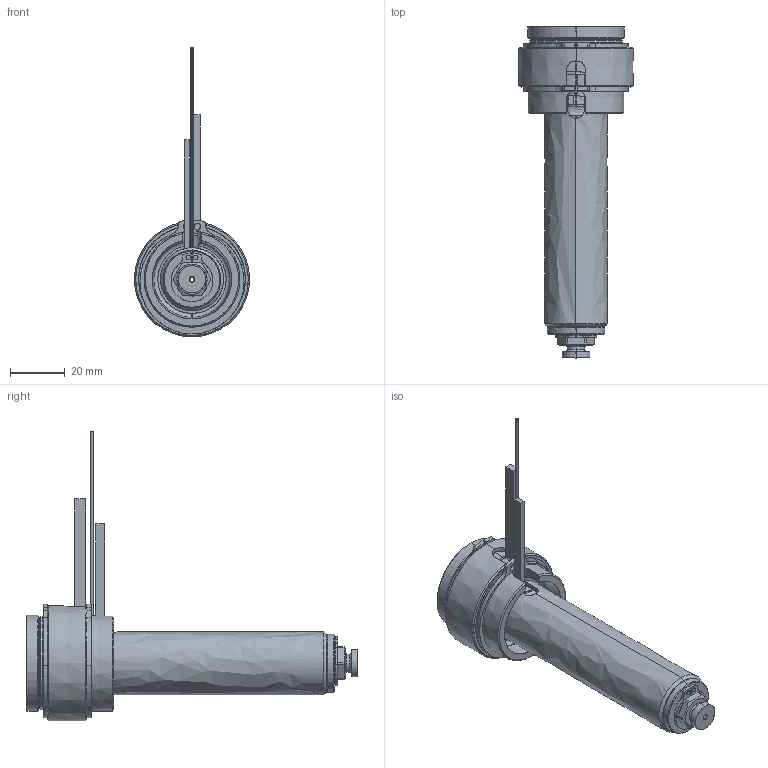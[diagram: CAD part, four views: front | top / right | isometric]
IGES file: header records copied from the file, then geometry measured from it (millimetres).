
Start section: SolidWorks IGES file using analytic representation for surfaces
Global section: file name: C:\Users\luca.EMPAD\Desktop\TEM\UGBE3502-S-A-3 [Ød-1.5 P-0 ØC-7.0].IGS; native system: SolidWorks 2012; preprocessor: SolidWorks 2012; author: luca; date: 120330.140425; units: millimetre
Bounding box: 42 x 121 x 105.6 mm (x, y, z)
Surface area: 28773.5 mm2 (no closed solid volume)
Topology: 0 solids, 0 shells, 188 faces, 3446 edges, 3446 vertices
Faces by surface type: revolution 120, bspline 68
